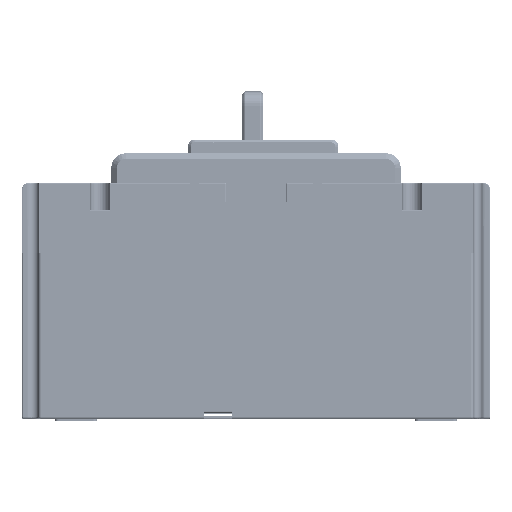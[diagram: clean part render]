
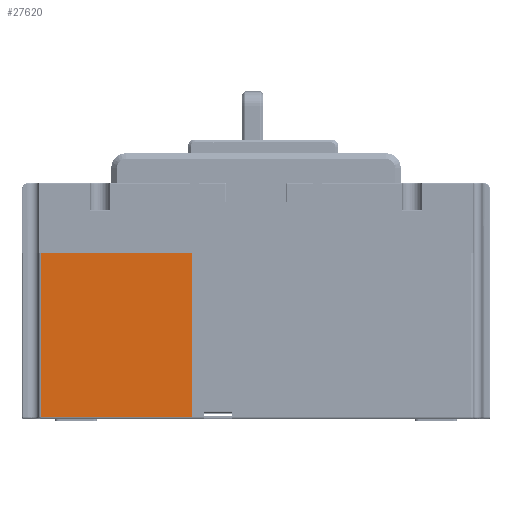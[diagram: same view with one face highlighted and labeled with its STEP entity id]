
A CAD part, top view. The second image highlights one B-rep face of the part: STEP entity #27620.
In plain terms, the highlighted planar face has unit normal (0, 0, 1).
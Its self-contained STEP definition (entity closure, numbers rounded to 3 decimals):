
#229=DIRECTION('',(1.,0.,0.));
#230=VECTOR('',#229,53.167);
#231=CARTESIAN_POINT('',(-75.667,-49.3,88.5));
#232=LINE('',#231,#230);
#4177=DIRECTION('',(0.,-1.,0.));
#4178=VECTOR('',#4177,58.);
#4179=CARTESIAN_POINT('',(-75.667,8.7,88.5));
#4180=LINE('',#4179,#4178);
#4181=DIRECTION('',(1.,0.,0.));
#4182=VECTOR('',#4181,53.167);
#4183=CARTESIAN_POINT('',(-75.667,8.7,88.5));
#4184=LINE('',#4183,#4182);
#4185=DIRECTION('',(0.,-1.,0.));
#4186=VECTOR('',#4185,58.);
#4187=CARTESIAN_POINT('',(-22.5,8.7,88.5));
#4188=LINE('',#4187,#4186);
#17689=CARTESIAN_POINT('',(-22.5,-49.3,88.5));
#17690=VERTEX_POINT('',#17689);
#17691=CARTESIAN_POINT('',(-75.667,-49.3,88.5));
#17692=VERTEX_POINT('',#17691);
#17697=CARTESIAN_POINT('',(-22.5,8.7,88.5));
#17698=VERTEX_POINT('',#17697);
#17959=CARTESIAN_POINT('',(-75.667,8.7,88.5));
#17960=VERTEX_POINT('',#17959);
#27609=CARTESIAN_POINT('',(0.,0.,88.5));
#27610=DIRECTION('',(0.,0.,1.));
#27611=DIRECTION('',(1.,0.,0.));
#27612=AXIS2_PLACEMENT_3D('',#27609,#27610,#27611);
#27613=PLANE('',#27612);
#27614=ORIENTED_EDGE('',*,*,#22887,.F.);
#27615=ORIENTED_EDGE('',*,*,#27604,.F.);
#27616=ORIENTED_EDGE('',*,*,#23224,.T.);
#27617=ORIENTED_EDGE('',*,*,#22903,.T.);
#27618=EDGE_LOOP('',(#27614,#27615,#27616,#27617));
#27619=FACE_OUTER_BOUND('',#27618,.F.);
#27620=ADVANCED_FACE('',(#27619),#27613,.T.);
#22887=EDGE_CURVE('',#17692,#17690,#232,.T.);
#22903=EDGE_CURVE('',#17698,#17690,#4188,.T.);
#23224=EDGE_CURVE('',#17960,#17698,#4184,.T.);
#27604=EDGE_CURVE('',#17960,#17692,#4180,.T.);
